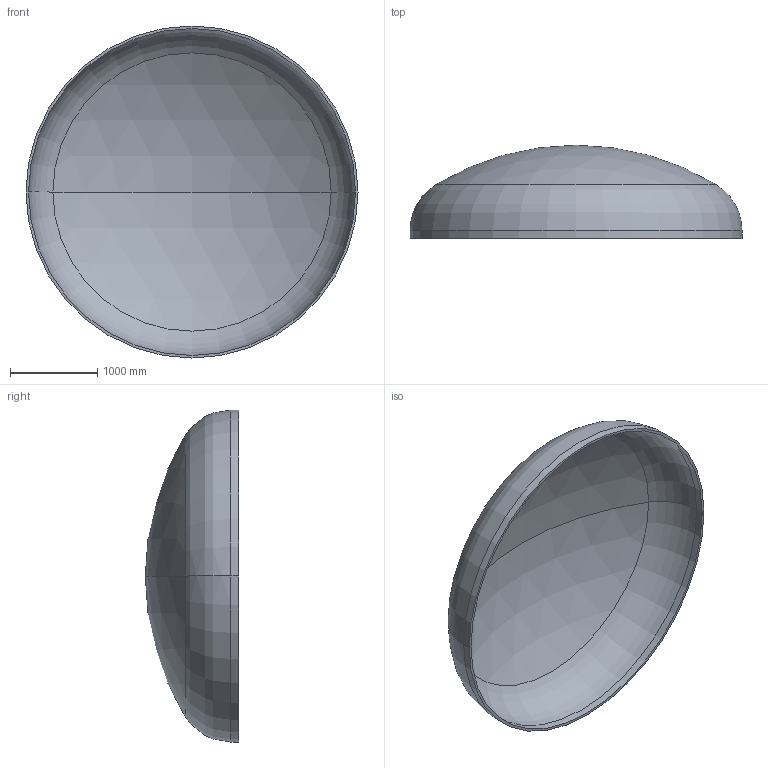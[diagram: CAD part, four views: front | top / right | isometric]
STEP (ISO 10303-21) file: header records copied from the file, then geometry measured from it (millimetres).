
FILE_DESCRIPTION (( 'STEP AP203' ), '1' );
FILE_NAME ('DIN 28013 Korbbogenform_-_Boden DIN 28013 - 3800 x 90 - I - s=29.step', '2016-07-01T21:14:53', ( '' ), ( '' ), 'SwSTEP 2.0', 'SolidWorks 2013', '' );
FILE_SCHEMA (( 'CONFIG_CONTROL_DESIGN' ));
Length unit declared in the file: millimetre
Products named in the file (1): DIN 28013 Korbbogenform_-_Boden DIN 28013 - 3800 x 90 - I - s=29
Bounding box: 3800 x 1067.77 x 3800 mm (x, y, z)
Volume: 481833097.4 mm3; surface area: 33575178.9 mm2
Topology: 1 solids, 1 shells, 13 faces, 24 edges, 14 vertices
Faces by surface type: torus 4, cylinder 4, sphere 4, plane 1
Entity records: 407 total; most frequent: DIRECTION 72, CARTESIAN_POINT 52, ORIENTED_EDGE 48, AXIS2_PLACEMENT_3D 34, EDGE_CURVE 24, CIRCLE 20, EDGE_LOOP 14, VERTEX_POINT 14
